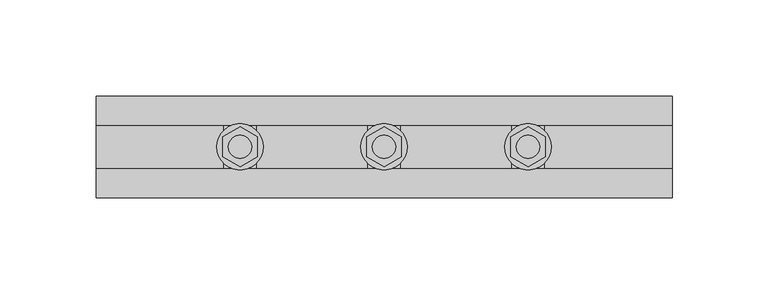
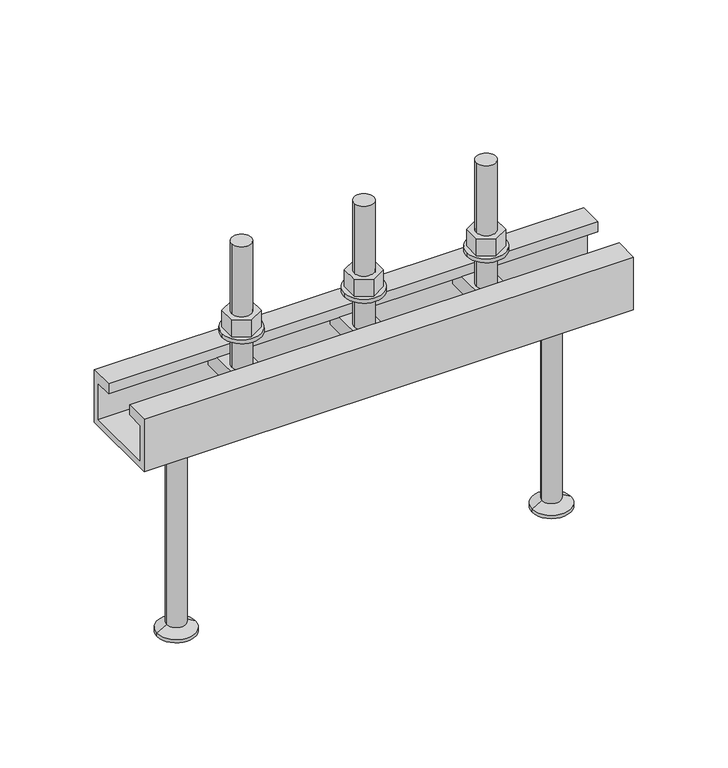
"""IFC4 building model written with IfcOpenShell, lengths in millimetres: fastener geometry, JTA-W JORDAHL® AnchorChannels : JTA-W L=300 mm."""

from ifc_helpers import new_model, si_unit, point, frame, frame_2d, origin, place, context, project, spatial, polyline, circle_curve, trimmed, segment, composite_curve, outline, extrude, source, transform, mapped, element, save
from ifc_brep_helpers import plane_surface, cylinder_surface, revolved_surface, advanced_brep


def fastener_e20cea6d(model_context):
    return source(origin(), model_context, "Body", "SolidModel", [
        extrude(outline(polyline([(150.0, -10.3923048), (141.0, -5.1961524), (141.0, 5.1961524), (150.0, 10.3923048), (159.0, 5.1961524), (159.0, -5.1961524), (150.0, -10.3923048)]), holes=[composite_curve([segment(trimmed(circle_curve(frame_2d((150.0, 0.0)), 6.0), [point((144.0, 0.0))], [point((156.0, 0.0))], True, "CARTESIAN"), True, "CONTINUOUS"), segment(trimmed(circle_curve(frame_2d((150.0, 0.0)), 6.0), [point((156.0, 0.0))], [point((144.0, 0.0))], True, "CARTESIAN"), True, "CONTINUOUS")], self_intersect=False)]), frame((0.0, 0.0, 17.5), z_axis=(0.0, 0.0, 1.0), x_axis=(1.0, 0.0, 0.0)), (0.0, 0.0, 1.0), 10.8),
        extrude(outline(composite_curve([segment(trimmed(circle_curve(frame_2d((150.0, 0.0)), 12.0), [point((138.0, 0.0))], [point((162.0, 0.0))], False, "CARTESIAN"), True, "CONTINUOUS"), segment(trimmed(circle_curve(frame_2d((150.0, 0.0)), 12.0), [point((162.0, 0.0))], [point((138.0, 0.0))], False, "CARTESIAN"), True, "CONTINUOUS")], self_intersect=False), holes=[composite_curve([segment(trimmed(circle_curve(frame_2d((150.0, 0.0)), 6.5), [point((143.5, 0.0))], [point((156.5, 0.0))], True, "CARTESIAN"), True, "CONTINUOUS"), segment(trimmed(circle_curve(frame_2d((150.0, 0.0)), 6.5), [point((156.5, 0.0))], [point((143.5, 0.0))], True, "CARTESIAN"), True, "CONTINUOUS")], self_intersect=False)]), frame((0.0, 0.0, 15.0), z_axis=(0.0, 0.0, 1.0), x_axis=(1.0, 0.0, 0.0)), (0.0, 0.0, 1.0), 2.5),
        advanced_brep(
        [(158.5, -20.7, -6.5), (158.5, -20.7, -16.5), (158.5, 20.7, -16.5), (158.5, 20.7, -6.5), (141.5, -20.7, -6.5), (141.5, 20.7, -6.5), (141.5, 20.7, -16.5), (141.5, -20.7, -16.5), (156.0, 0.0, -6.5), (144.0, 0.0, -6.5), (144.0, 0.0, 73.5), (156.0, 0.0, 73.5)],
        [
            (0, 1),
            (1, 2),
            (2, 3),
            (3, 0),
            (4, 5),
            (5, 6),
            (6, 7),
            (7, 4),
            (3, 5),
            (4, 0),
            (8, 9, circle_curve(frame((150.0, 0.0, -6.5), z_axis=(0.0, 0.0, -1.0), x_axis=(1.0, 0.0, 0.0)), 6.0)),
            (9, 8, circle_curve(frame((150.0, 0.0, -6.5), z_axis=(0.0, 0.0, -1.0), x_axis=(1.0, 0.0, 0.0)), 6.0)),
            (2, 6),
            (1, 7),
            (10, 11, circle_curve(frame((150.0, 0.0, 73.5), z_axis=(0.0, 0.0, 1.0), x_axis=(1.0, 0.0, 0.0)), 6.0)),
            (11, 10, circle_curve(frame((150.0, 0.0, 73.5), z_axis=(0.0, 0.0, 1.0), x_axis=(1.0, 0.0, 0.0)), 6.0)),
            (11, 8),
            (9, 10),
        ],
        [
            plane_surface(frame((158.5, 20.7, -6.5), z_axis=(1.0, 0.0, 0.0), x_axis=(0.0, 1.0, 0.0))),
            plane_surface(frame((141.5, 20.7, -6.5), z_axis=(-1.0, 0.0, 0.0), x_axis=(0.0, -1.0, 0.0))),
            plane_surface(frame((158.5, -20.7, -6.5), z_axis=(0.0, 0.0, 1.0), x_axis=(-1.0, 0.0, 0.0))),
            plane_surface(frame((158.5, 20.7, -6.5), z_axis=(0.0, 1.0, 0.0), x_axis=(-1.0, 0.0, 0.0))),
            plane_surface(frame((158.5, 20.7, -16.5), z_axis=(0.0, 0.0, -1.0), x_axis=(-1.0, 0.0, 0.0))),
            plane_surface(frame((158.5, -20.7, -16.5), z_axis=(0.0, -1.0, 0.0), x_axis=(-1.0, 0.0, 0.0))),
            plane_surface(frame((156.0, 0.0, 73.5), z_axis=(0.0, 0.0, 1.0), x_axis=(0.0, -1.0, 0.0))),
            cylinder_surface(frame((150.0, 0.0, -6.5), z_axis=(0.0, 0.0, 1.0), x_axis=(1.0, 0.0, 0.0)), 6.0),
        ],
        [
            (0, [[1, 2, 3, 4]]),
            (1, [[5, 6, 7, 8]]),
            (2, [[9, -5, 10, -4], [11, 12]]),
            (3, [[13, -6, -9, -3]]),
            (4, [[14, -7, -13, -2]]),
            (5, [[-10, -8, -14, -1]]),
            (6, [[15, 16]]),
            (7, [[17, -12, 18, -16]]),
            (7, [[-18, -11, -17, -15]]),
        ],
    ),
        extrude(outline(polyline([(225.0, -10.3923048), (216.0, -5.1961524), (216.0, 5.1961524), (225.0, 10.3923048), (234.0, 5.1961524), (234.0, -5.1961524), (225.0, -10.3923048)]), holes=[composite_curve([segment(trimmed(circle_curve(frame_2d((225.0, 0.0)), 6.0), [point((219.0, 0.0))], [point((231.0, 0.0))], True, "CARTESIAN"), True, "CONTINUOUS"), segment(trimmed(circle_curve(frame_2d((225.0, 0.0)), 6.0), [point((231.0, 0.0))], [point((219.0, 0.0))], True, "CARTESIAN"), True, "CONTINUOUS")], self_intersect=False)]), frame((0.0, 0.0, 17.5), z_axis=(0.0, 0.0, 1.0), x_axis=(1.0, 0.0, 0.0)), (0.0, 0.0, 1.0), 10.8),
        extrude(outline(composite_curve([segment(trimmed(circle_curve(frame_2d((225.0, 0.0)), 12.0), [point((213.0, 0.0))], [point((237.0, 0.0))], False, "CARTESIAN"), True, "CONTINUOUS"), segment(trimmed(circle_curve(frame_2d((225.0, 0.0)), 12.0), [point((237.0, 0.0))], [point((213.0, 0.0))], False, "CARTESIAN"), True, "CONTINUOUS")], self_intersect=False), holes=[composite_curve([segment(trimmed(circle_curve(frame_2d((225.0, 0.0)), 6.5), [point((218.5, 0.0))], [point((231.5, 0.0))], True, "CARTESIAN"), True, "CONTINUOUS"), segment(trimmed(circle_curve(frame_2d((225.0, 0.0)), 6.5), [point((231.5, 0.0))], [point((218.5, 0.0))], True, "CARTESIAN"), True, "CONTINUOUS")], self_intersect=False)]), frame((0.0, 0.0, 15.0), z_axis=(0.0, 0.0, 1.0), x_axis=(1.0, 0.0, 0.0)), (0.0, 0.0, 1.0), 2.5),
        extrude(outline(polyline([(75.0, -10.3923048), (66.0, -5.1961524), (66.0, 5.1961524), (75.0, 10.3923048), (84.0, 5.1961524), (84.0, -5.1961524), (75.0, -10.3923048)]), holes=[composite_curve([segment(trimmed(circle_curve(frame_2d((75.0, 0.0)), 6.0), [point((69.0, 0.0))], [point((81.0, 0.0))], True, "CARTESIAN"), True, "CONTINUOUS"), segment(trimmed(circle_curve(frame_2d((75.0, 0.0)), 6.0), [point((81.0, 0.0))], [point((69.0, 0.0))], True, "CARTESIAN"), True, "CONTINUOUS")], self_intersect=False)]), frame((0.0, 0.0, 17.5), z_axis=(0.0, 0.0, 1.0), x_axis=(1.0, 0.0, 0.0)), (0.0, 0.0, 1.0), 10.8),
        extrude(outline(composite_curve([segment(trimmed(circle_curve(frame_2d((75.0, 0.0)), 12.0), [point((63.0, 0.0))], [point((87.0, 0.0))], False, "CARTESIAN"), True, "CONTINUOUS"), segment(trimmed(circle_curve(frame_2d((75.0, 0.0)), 12.0), [point((87.0, 0.0))], [point((63.0, 0.0))], False, "CARTESIAN"), True, "CONTINUOUS")], self_intersect=False), holes=[composite_curve([segment(trimmed(circle_curve(frame_2d((75.0, 0.0)), 6.5), [point((68.5, 0.0))], [point((81.5, 0.0))], True, "CARTESIAN"), True, "CONTINUOUS"), segment(trimmed(circle_curve(frame_2d((75.0, 0.0)), 6.5), [point((81.5, 0.0))], [point((68.5, 0.0))], True, "CARTESIAN"), True, "CONTINUOUS")], self_intersect=False)]), frame((0.0, 0.0, 15.0), z_axis=(0.0, 0.0, 1.0), x_axis=(1.0, 0.0, 0.0)), (0.0, 0.0, 1.0), 2.5),
        advanced_brep(
        [(233.5, -20.7, -6.5), (233.5, -20.7, -16.5), (233.5, 20.7, -16.5), (233.5, 20.7, -6.5), (216.5, -20.7, -6.5), (216.5, 20.7, -6.5), (216.5, 20.7, -16.5), (216.5, -20.7, -16.5), (231.0, 0.0, -6.5), (219.0, 0.0, -6.5), (219.0, 0.0, 73.5), (231.0, 0.0, 73.5)],
        [
            (0, 1),
            (1, 2),
            (2, 3),
            (3, 0),
            (4, 5),
            (5, 6),
            (6, 7),
            (7, 4),
            (3, 5),
            (4, 0),
            (8, 9, circle_curve(frame((225.0, 0.0, -6.5), z_axis=(0.0, 0.0, -1.0), x_axis=(1.0, 0.0, 0.0)), 6.0)),
            (9, 8, circle_curve(frame((225.0, 0.0, -6.5), z_axis=(0.0, 0.0, -1.0), x_axis=(1.0, 0.0, 0.0)), 6.0)),
            (2, 6),
            (1, 7),
            (10, 11, circle_curve(frame((225.0, 0.0, 73.5), z_axis=(0.0, 0.0, 1.0), x_axis=(1.0, 0.0, 0.0)), 6.0)),
            (11, 10, circle_curve(frame((225.0, 0.0, 73.5), z_axis=(0.0, 0.0, 1.0), x_axis=(1.0, 0.0, 0.0)), 6.0)),
            (11, 8),
            (9, 10),
        ],
        [
            plane_surface(frame((233.5, 20.7, -6.5), z_axis=(1.0, 0.0, 0.0), x_axis=(0.0, 1.0, 0.0))),
            plane_surface(frame((216.5, 20.7, -6.5), z_axis=(-1.0, 0.0, 0.0), x_axis=(0.0, -1.0, 0.0))),
            plane_surface(frame((233.5, -20.7, -6.5), z_axis=(0.0, 0.0, 1.0), x_axis=(-1.0, 0.0, 0.0))),
            plane_surface(frame((233.5, 20.7, -6.5), z_axis=(0.0, 1.0, 0.0), x_axis=(-1.0, 0.0, 0.0))),
            plane_surface(frame((233.5, 20.7, -16.5), z_axis=(0.0, 0.0, -1.0), x_axis=(-1.0, 0.0, 0.0))),
            plane_surface(frame((233.5, -20.7, -16.5), z_axis=(0.0, -1.0, 0.0), x_axis=(-1.0, 0.0, 0.0))),
            plane_surface(frame((231.0, 0.0, 73.5), z_axis=(0.0, 0.0, 1.0), x_axis=(0.0, -1.0, 0.0))),
            cylinder_surface(frame((225.0, 0.0, -6.5), z_axis=(0.0, 0.0, 1.0), x_axis=(1.0, 0.0, 0.0)), 6.0),
        ],
        [
            (0, [[1, 2, 3, 4]]),
            (1, [[5, 6, 7, 8]]),
            (2, [[9, -5, 10, -4], [11, 12]]),
            (3, [[13, -6, -9, -3]]),
            (4, [[14, -7, -13, -2]]),
            (5, [[-10, -8, -14, -1]]),
            (6, [[15, 16]]),
            (7, [[17, -12, 18, -16]]),
            (7, [[-18, -11, -17, -15]]),
        ],
    ),
        advanced_brep(
        [(83.5, -20.7, -6.5), (83.5, -20.7, -16.5), (83.5, 20.7, -16.5), (83.5, 20.7, -6.5), (66.5, -20.7, -6.5), (66.5, 20.7, -6.5), (66.5, 20.7, -16.5), (66.5, -20.7, -16.5), (81.0, 0.0, -6.5), (69.0, 0.0, -6.5), (69.0, 0.0, 73.5), (81.0, 0.0, 73.5)],
        [
            (0, 1),
            (1, 2),
            (2, 3),
            (3, 0),
            (4, 5),
            (5, 6),
            (6, 7),
            (7, 4),
            (3, 5),
            (4, 0),
            (8, 9, circle_curve(frame((75.0, 0.0, -6.5), z_axis=(0.0, 0.0, -1.0), x_axis=(1.0, 0.0, 0.0)), 6.0)),
            (9, 8, circle_curve(frame((75.0, 0.0, -6.5), z_axis=(0.0, 0.0, -1.0), x_axis=(1.0, 0.0, 0.0)), 6.0)),
            (2, 6),
            (1, 7),
            (10, 11, circle_curve(frame((75.0, 0.0, 73.5), z_axis=(0.0, 0.0, 1.0), x_axis=(1.0, 0.0, 0.0)), 6.0)),
            (11, 10, circle_curve(frame((75.0, 0.0, 73.5), z_axis=(0.0, 0.0, 1.0), x_axis=(1.0, 0.0, 0.0)), 6.0)),
            (11, 8),
            (9, 10),
        ],
        [
            plane_surface(frame((83.5, 20.7, -6.5), z_axis=(1.0, 0.0, 0.0), x_axis=(0.0, 1.0, 0.0))),
            plane_surface(frame((66.5, 20.7, -6.5), z_axis=(-1.0, 0.0, 0.0), x_axis=(0.0, -1.0, 0.0))),
            plane_surface(frame((83.5, -20.7, -6.5), z_axis=(0.0, 0.0, 1.0), x_axis=(-1.0, 0.0, 0.0))),
            plane_surface(frame((83.5, 20.7, -6.5), z_axis=(0.0, 1.0, 0.0), x_axis=(-1.0, 0.0, 0.0))),
            plane_surface(frame((83.5, 20.7, -16.5), z_axis=(0.0, 0.0, -1.0), x_axis=(-1.0, 0.0, 0.0))),
            plane_surface(frame((83.5, -20.7, -16.5), z_axis=(0.0, -1.0, 0.0), x_axis=(-1.0, 0.0, 0.0))),
            plane_surface(frame((81.0, 0.0, 73.5), z_axis=(0.0, 0.0, 1.0), x_axis=(0.0, -1.0, 0.0))),
            cylinder_surface(frame((75.0, 0.0, -6.5), z_axis=(0.0, 0.0, 1.0), x_axis=(1.0, 0.0, 0.0)), 6.0),
        ],
        [
            (0, [[1, 2, 3, 4]]),
            (1, [[5, 6, 7, 8]]),
            (2, [[9, -5, 10, -4], [11, 12]]),
            (3, [[13, -6, -9, -3]]),
            (4, [[14, -7, -13, -2]]),
            (5, [[-10, -8, -14, -1]]),
            (6, [[15, 16]]),
            (7, [[17, -12, 18, -16]]),
            (7, [[-18, -11, -17, -15]]),
        ],
    ),
        advanced_brep(
        [(265.0, 0.0, -34.0), (247.5, 0.0, -34.0), (282.5, 0.0, -34.0), (253.2, 0.0, -165.0), (265.0, 0.0, -165.0), (276.8, 0.0, -165.0), (253.2, 0.0, -163.0), (276.8, 0.0, -163.0), (259.2, 0.0, -159.5358984), (270.8, 0.0, -159.5358984), (259.2, 0.0, -37.0), (270.8, 0.0, -37.0)],
        [
            (0, 1),
            (1, 2, circle_curve(frame((265.0, 0.0, -34.0), z_axis=(0.0, 0.0, 1.0), x_axis=(1.0, 0.0, 0.0)), 17.5)),
            (2, 0),
            (2, 1, circle_curve(frame((265.0, 0.0, -34.0), z_axis=(0.0, 0.0, 1.0), x_axis=(1.0, 0.0, 0.0)), 17.5)),
            (3, 4),
            (4, 5),
            (5, 3, circle_curve(frame((265.0, 0.0, -165.0), z_axis=(0.0, 0.0, -1.0), x_axis=(1.0, 0.0, 0.0)), 11.8)),
            (3, 5, circle_curve(frame((265.0, 0.0, -165.0), z_axis=(0.0, 0.0, -1.0), x_axis=(1.0, 0.0, 0.0)), 11.8)),
            (6, 3),
            (5, 7),
            (7, 6, circle_curve(frame((265.0, 0.0, -163.0), z_axis=(0.0, 0.0, -1.0), x_axis=(1.0, 0.0, 0.0)), 11.8)),
            (6, 7, circle_curve(frame((265.0, 0.0, -163.0), z_axis=(0.0, 0.0, -1.0), x_axis=(1.0, 0.0, 0.0)), 11.8)),
            (8, 6),
            (7, 9),
            (9, 8, circle_curve(frame((265.0, 0.0, -159.5358984), z_axis=(0.0, 0.0, -1.0), x_axis=(1.0, 0.0, 0.0)), 5.8)),
            (8, 9, circle_curve(frame((265.0, 0.0, -159.5358984), z_axis=(0.0, 0.0, -1.0), x_axis=(1.0, 0.0, 0.0)), 5.8)),
            (10, 8),
            (9, 11),
            (11, 10, circle_curve(frame((265.0, 0.0, -37.0), z_axis=(0.0, 0.0, -1.0), x_axis=(1.0, 0.0, 0.0)), 5.8)),
            (10, 11, circle_curve(frame((265.0, 0.0, -37.0), z_axis=(0.0, 0.0, -1.0), x_axis=(1.0, 0.0, 0.0)), 5.8)),
            (1, 10),
            (11, 2),
        ],
        [
            plane_surface(frame((265.0, 0.0, -34.0), z_axis=(0.0, 0.0, 1.0), x_axis=(1.0, 0.0, 0.0))),
            plane_surface(frame((265.0, 0.0, -165.0), z_axis=(0.0, 0.0, -1.0), x_axis=(1.0, 0.0, 0.0))),
            cylinder_surface(frame((265.0, 0.0, 2345.3150031), z_axis=(0.0, 0.0, 1.0), x_axis=(1.0, 0.0, 0.0)), 11.8),
            revolved_surface(polyline([(276.8, 0.0, -163.0), (270.8, 0.0, -159.5358984)]), (265.0, 0.0, 2345.3150031), (0.0, 0.0, 1.0)),
            cylinder_surface(frame((265.0, 0.0, 2345.3150031), z_axis=(0.0, 0.0, 1.0), x_axis=(1.0, 0.0, 0.0)), 5.8),
            revolved_surface(polyline([(270.8, 0.0, -37.0), (282.5, 0.0, -34.0)]), (265.0, 0.0, 2345.3150031), (0.0, 0.0, 1.0)),
        ],
        [
            (0, [[1, 2, 3]]),
            (0, [[-3, 4, -1]]),
            (1, [[5, 6, 7]]),
            (1, [[-6, -5, 8]]),
            (2, [[9, -7, 10, 11]]),
            (2, [[-10, -8, -9, 12]]),
            (3, [[13, -11, 14, 15]]),
            (3, [[-14, -12, -13, 16]]),
            (4, [[17, -15, 18, 19]]),
            (4, [[-18, -16, -17, 20]]),
            (5, [[21, -19, 22, -2]]),
            (5, [[-22, -20, -21, -4]]),
        ],
    ),
        advanced_brep(
        [(35.0, 0.0, -34.0), (17.5, 0.0, -34.0), (52.5, 0.0, -34.0), (23.2, 0.0, -165.0), (35.0, 0.0, -165.0), (46.8, 0.0, -165.0), (23.2, 0.0, -163.0), (46.8, 0.0, -163.0), (29.2, 0.0, -159.5358984), (40.8, 0.0, -159.5358984), (29.2, 0.0, -37.0), (40.8, 0.0, -37.0)],
        [
            (0, 1),
            (1, 2, circle_curve(frame((35.0, 0.0, -34.0), z_axis=(0.0, 0.0, 1.0), x_axis=(1.0, 0.0, 0.0)), 17.5)),
            (2, 0),
            (2, 1, circle_curve(frame((35.0, 0.0, -34.0), z_axis=(0.0, 0.0, 1.0), x_axis=(1.0, 0.0, 0.0)), 17.5)),
            (3, 4),
            (4, 5),
            (5, 3, circle_curve(frame((35.0, 0.0, -165.0), z_axis=(0.0, 0.0, -1.0), x_axis=(1.0, 0.0, 0.0)), 11.8)),
            (3, 5, circle_curve(frame((35.0, 0.0, -165.0), z_axis=(0.0, 0.0, -1.0), x_axis=(1.0, 0.0, 0.0)), 11.8)),
            (6, 3),
            (5, 7),
            (7, 6, circle_curve(frame((35.0, 0.0, -163.0), z_axis=(0.0, 0.0, -1.0), x_axis=(1.0, 0.0, 0.0)), 11.8)),
            (6, 7, circle_curve(frame((35.0, 0.0, -163.0), z_axis=(0.0, 0.0, -1.0), x_axis=(1.0, 0.0, 0.0)), 11.8)),
            (8, 6),
            (7, 9),
            (9, 8, circle_curve(frame((35.0, 0.0, -159.5358984), z_axis=(0.0, 0.0, -1.0), x_axis=(1.0, 0.0, 0.0)), 5.8)),
            (8, 9, circle_curve(frame((35.0, 0.0, -159.5358984), z_axis=(0.0, 0.0, -1.0), x_axis=(1.0, 0.0, 0.0)), 5.8)),
            (10, 8),
            (9, 11),
            (11, 10, circle_curve(frame((35.0, 0.0, -37.0), z_axis=(0.0, 0.0, -1.0), x_axis=(1.0, 0.0, 0.0)), 5.8)),
            (10, 11, circle_curve(frame((35.0, 0.0, -37.0), z_axis=(0.0, 0.0, -1.0), x_axis=(1.0, 0.0, 0.0)), 5.8)),
            (1, 10),
            (11, 2),
        ],
        [
            plane_surface(frame((35.0, 0.0, -34.0), z_axis=(0.0, 0.0, 1.0), x_axis=(1.0, 0.0, 0.0))),
            plane_surface(frame((35.0, 0.0, -165.0), z_axis=(0.0, 0.0, -1.0), x_axis=(1.0, 0.0, 0.0))),
            cylinder_surface(frame((35.0, 0.0, 2345.3150031), z_axis=(0.0, 0.0, 1.0), x_axis=(1.0, 0.0, 0.0)), 11.8),
            revolved_surface(polyline([(46.8, 0.0, -163.0), (40.8, 0.0, -159.5358984)]), (35.0, 0.0, 2345.3150031), (0.0, 0.0, 1.0)),
            cylinder_surface(frame((35.0, 0.0, 2345.3150031), z_axis=(0.0, 0.0, 1.0), x_axis=(1.0, 0.0, 0.0)), 5.8),
            revolved_surface(polyline([(40.8, 0.0, -37.0), (52.5, 0.0, -34.0)]), (35.0, 0.0, 2345.3150031), (0.0, 0.0, 1.0)),
        ],
        [
            (0, [[1, 2, 3]]),
            (0, [[-3, 4, -1]]),
            (1, [[5, 6, 7]]),
            (1, [[-6, -5, 8]]),
            (2, [[9, -7, 10, 11]]),
            (2, [[-10, -8, -9, 12]]),
            (3, [[13, -11, 14, 15]]),
            (3, [[-14, -12, -13, 16]]),
            (4, [[17, -15, 18, 19]]),
            (4, [[-18, -16, -17, 20]]),
            (5, [[21, -19, 22, -2]]),
            (5, [[-22, -20, -21, -4]]),
        ],
    ),
        extrude(outline(polyline([(-26.5, 0.0), (-11.25, 0.0), (-11.25, -6.5), (-22.5, -6.5), (-22.5, -30.0), (22.5, -30.0), (22.5, -6.5), (11.25, -6.5), (11.25, 0.0), (26.5, 0.0), (26.5, -34.0), (-26.5, -34.0), (-26.5, 0.0)])), frame((0.0, 0.0, 0.0), z_axis=(1.0, 0.0, 0.0), x_axis=(0.0, 1.0, 0.0)), (0.0, 0.0, 1.0), 300.0),
    ])


if __name__ == "__main__":
    model = new_model("IFC4")
    model_context = context("Model", 3, world=origin())
    ifc_project = project(units=[si_unit("LENGTHUNIT", "METRE", prefix="MILLI")], contexts=[model_context])
    site = spatial("IfcSite", under=ifc_project)
    building = spatial("IfcBuilding", under=site)
    placement = place(None, origin())
    fastener_shape = fastener_e20cea6d(model_context)
    element("IfcFastener", 1, ObjectType="JTA-W JORDAHL® AnchorChannels : JTA-W L=300 mm", at=placement, inside=building, context=model_context, shape_type="MappedRepresentation", body=[
        mapped(fastener_shape, transform((0.0, 0.0, 0.0), x_axis=(1.0, 0.0, 0.0), y_axis=(0.0, 1.0, 0.0), z_axis=(0.0, 0.0, 1.0))),
    ])
    save(model, "model.ifc")
